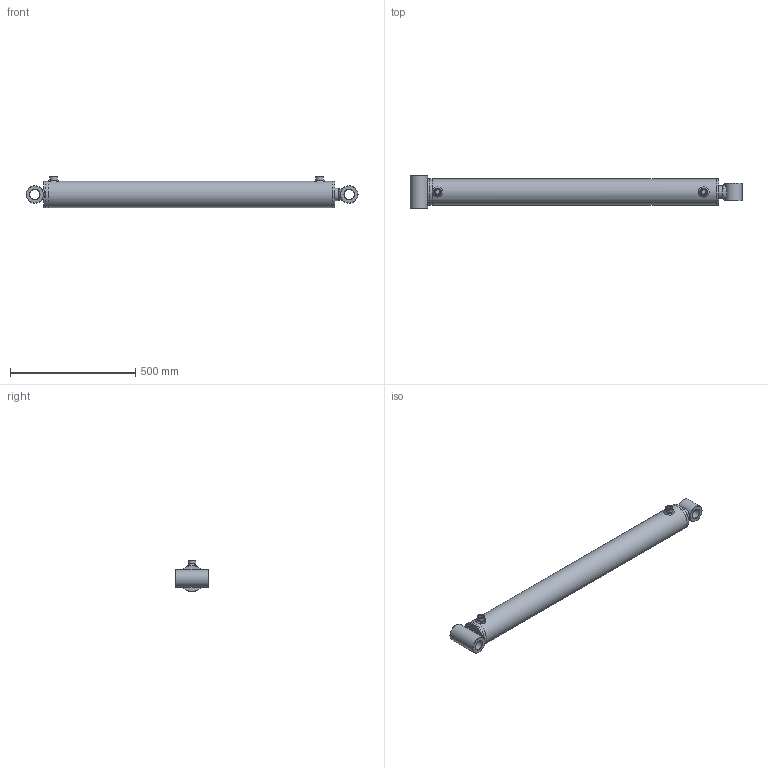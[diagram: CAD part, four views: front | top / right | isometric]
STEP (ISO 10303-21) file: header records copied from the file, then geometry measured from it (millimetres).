
FILE_DESCRIPTION( ( 'Unknown' ), '1' );
FILE_NAME( 'E:/LIBRERIA_3d/CILINDRI/HM2/HM2090501000.stp', 'Unknown', ( 'Unknown' ), ( 'Unknown' ), 'PSStep 17.0.49', 'Unknown', ' ' );
FILE_SCHEMA( ( 'AUTOMOTIVE_DESIGN { 1 0 10303 214 1 1 1 1 }' ) );
Length unit declared in the file: millimetre
Products named in the file (25): CG10509050; CT00090033; STL0901051000-oa6; Saldatura d'angolo 1-oa4; CBS0800000; MAT_PRIMA_TUBO_FT10509000-oa5; HM0090501000; CF00090105; APG0800000; CDA0003320; Saldatura con preparazione 1-oa2; Saldatura d'angolo 1-oa3; SBL0500901000; Assem1; CB40070070; CB40070130; Saldatura d'angolo 1-oa0; Saldatura d'angolo 2-oa1
Assembly tree (18 placements, depth 4):
  Saldatura d'angolo 1-oa4
  Saldatura d'angolo 1-oa4
  Saldatura d'angolo 1-oa3
  Saldatura d'angolo 1-oa3
  Assem1
    CB40070070
    CB40070130
    HM0090501000
      CF00090105
      CBS0800000
      APG0800000  x2
      CDA0003320
      Saldatura con preparazione 1-oa2
      Saldatura con preparazione 1-oa2
      SBL0500901000
      CG10509050
        CG10509050
      CT00090033
        CT00090033
      STL0901051000-oa6
        CBS0800000
        MAT_PRIMA_TUBO_FT10509000-oa5
Bounding box: 1326 x 130 x 125 mm (x, y, z)
Volume: 6043581.6 mm3; surface area: 1133801.6 mm2
Topology: 22 solids, 22 shells, 300 faces, 620 edges, 359 vertices
Faces by surface type: bspline 86, plane 76, cylinder 62, cone 40, torus 36
Full cylindrical faces by diameter (mm): 4.25 x1, 8 x2, 12 x1, 18.631 x2, 19.5 x2, 20.95 x2, 26 x2, 30 x2, 32.4 x1, 33 x5, 39.2 x1, 40.25 x2, 50 x6, 53 x3, 58.6 x1, 60 x1, 70 x3, 81.5 x1, 84.15 x2, 88.31 x2, 89.9 x1, 90 x1, 90.3 x1, 90.5 x1, 90.6 x1, 91 x1, 92 x3, 92.835 x1, 95 x1, 104 x1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
Entity records: 16960 total; most frequent: CARTESIAN_POINT 9756, DIRECTION 850, ORIENTED_EDGE 820, EDGE_LOOP 461, EDGE_CURVE 410, AXIS2_PLACEMENT_3D 406, FACE_OUTER_BOUND 382, VERTEX_POINT 306
